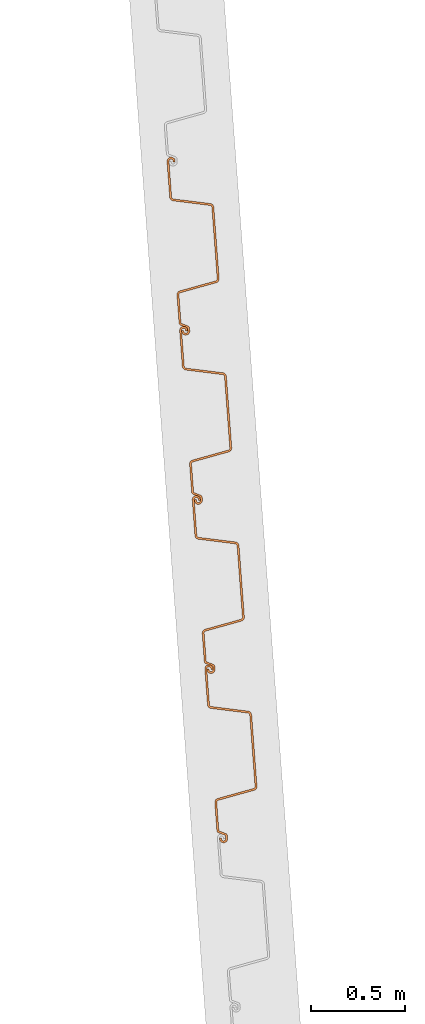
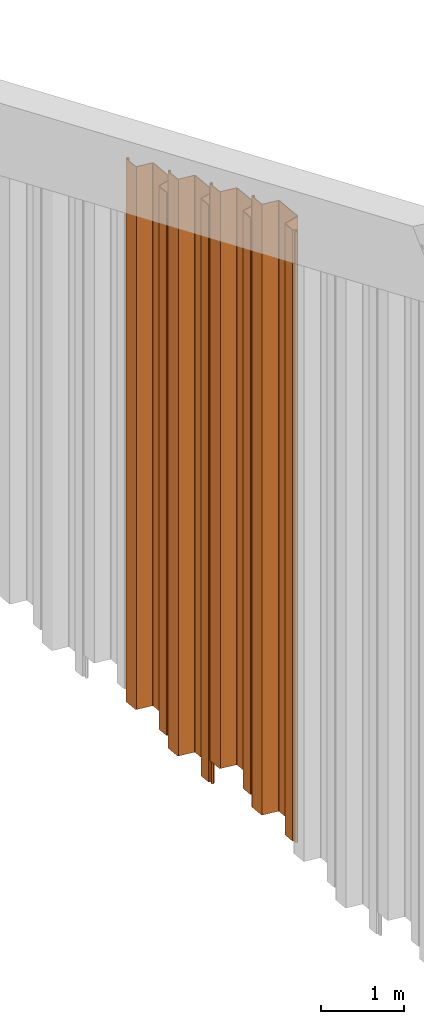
# One storey, part 4 of 15: 4 proxies.
"""IFC2X3 building model written with IfcOpenShell, lengths in millimetres."""

from ifc_helpers import new_model, entity, si_unit, converted_unit, derived_unit, direction, frame, frame_2d, origin, place, context, subcontext, project, spatial, polyline, circle_curve, parameter, trimmed, segment, composite_curve, outline, extrude, source, transform, mapped, material, type_object, type_shapes, element, save


model = new_model("IFC2X3")

# Units and contexts
model_context = context("Model", 3, precision=0.01, world=origin(), true_north=direction((6.12303176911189e-17, 1.0)))
body_context = subcontext(model_context, "Body", "Model", "MODEL_VIEW")
ifc_project = project(units=[si_unit("LENGTHUNIT", "METRE", prefix="MILLI"), si_unit("AREAUNIT", "SQUARE_METRE"), si_unit("VOLUMEUNIT", "CUBIC_METRE"), converted_unit("PLANEANGLEUNIT", "DEGREE", entity("IfcRatioMeasure", 0.0174532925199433), si_unit("PLANEANGLEUNIT", "RADIAN"), dimensions=[0, 0, 0, 0, 0, 0, 0]), si_unit("MASSUNIT", "GRAM", prefix="KILO"), derived_unit("MASSDENSITYUNIT", [(si_unit("MASSUNIT", "GRAM", prefix="KILO"), 1), (si_unit("LENGTHUNIT", "METRE"), -3)]), derived_unit("MOMENTOFINERTIAUNIT", [(si_unit("LENGTHUNIT", "METRE"), 4)]), si_unit("TIMEUNIT", "SECOND"), si_unit("FREQUENCYUNIT", "HERTZ"), si_unit("THERMODYNAMICTEMPERATUREUNIT", "DEGREE_CELSIUS"), derived_unit("THERMALTRANSMITTANCEUNIT", [(si_unit("MASSUNIT", "GRAM", prefix="KILO"), 1), (si_unit("THERMODYNAMICTEMPERATUREUNIT", "KELVIN"), -1), (si_unit("TIMEUNIT", "SECOND"), -3)]), derived_unit("VOLUMETRICFLOWRATEUNIT", [(si_unit("LENGTHUNIT", "METRE"), 3), (si_unit("TIMEUNIT", "SECOND"), -1)]), si_unit("ELECTRICCURRENTUNIT", "AMPERE"), si_unit("ELECTRICVOLTAGEUNIT", "VOLT"), si_unit("POWERUNIT", "WATT"), si_unit("FORCEUNIT", "NEWTON", prefix="KILO"), si_unit("ILLUMINANCEUNIT", "LUX"), si_unit("LUMINOUSFLUXUNIT", "LUMEN"), si_unit("LUMINOUSINTENSITYUNIT", "CANDELA"), derived_unit("USERDEFINED", [(si_unit("MASSUNIT", "GRAM", prefix="KILO"), -1), (si_unit("LENGTHUNIT", "METRE"), -2), (si_unit("TIMEUNIT", "SECOND"), 3), (si_unit("LUMINOUSFLUXUNIT", "LUMEN"), 1)]), derived_unit("LINEARVELOCITYUNIT", [(si_unit("LENGTHUNIT", "METRE"), 1), (si_unit("TIMEUNIT", "SECOND"), -1)]), si_unit("PRESSUREUNIT", "PASCAL"), derived_unit("USERDEFINED", [(si_unit("LENGTHUNIT", "METRE"), -2), (si_unit("MASSUNIT", "GRAM", prefix="KILO"), 1), (si_unit("TIMEUNIT", "SECOND"), -2)]), derived_unit("LINEARFORCEUNIT", [(si_unit("MASSUNIT", "GRAM", prefix="KILO"), 1), (si_unit("LENGTHUNIT", "METRE"), 1), (si_unit("TIMEUNIT", "SECOND"), -2), (si_unit("LENGTHUNIT", "METRE"), -1)]), derived_unit("PLANARFORCEUNIT", [(si_unit("MASSUNIT", "GRAM", prefix="KILO"), 1), (si_unit("LENGTHUNIT", "METRE"), 1), (si_unit("TIMEUNIT", "SECOND"), -2), (si_unit("LENGTHUNIT", "METRE"), -2)])], contexts=[model_context])

# Site, building, storey
site_placement = place(None, origin())
site = spatial("IfcSite", under=ifc_project, at=site_placement, Name="Default", CompositionType="ELEMENT")
building_placement = place(site_placement, origin())
building = spatial("IfcBuilding", under=site, at=building_placement, CompositionType="ELEMENT")
storey_placement = place(building_placement, frame((0.0, 0.0, 9500.0)))
storey = spatial("IfcBuildingStorey", under=building, at=storey_placement, Name="AP+9.500", CompositionType="ELEMENT", Elevation=9500.0)

# Proxies
ifc_material = material(Name="<Unnamed>")
building_element_proxy_type_1 = type_object("IfcBuildingElementProxyType", Name="鋼矢板10H型:鋼矢板10H型", PredefinedType="NOTDEFINED", material=ifc_material)
shared_shape_1 = source(origin(), body_context, "Body", "SweptSolid", [
    extrude(outline(composite_curve([segment(trimmed(circle_curve(frame_2d((85.3662976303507, 306.644432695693), x_axis=(0.422618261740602, 0.906307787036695)), 13.885714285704), [parameter(24.9999999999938)], [parameter(90.0000000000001)], True, "PARAMETER"), True, "CONTINUOUS"), segment(polyline([(72.7815666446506, 312.512789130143), (9.8129512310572, 177.476157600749)]), True, "CONTINUOUS"), segment(trimmed(circle_curve(frame_2d((29.3891994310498, 168.347603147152), x_axis=(0.422618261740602, 0.906307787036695)), 21.6), [parameter(90.0000000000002)], [parameter(168.69006752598)], True, "PARAMETER"), True, "CONTINUOUS"), segment(polyline([(16.598697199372, 150.941769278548), (175.329723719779, 34.2998683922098)]), True, "CONTINUOUS"), segment(trimmed(circle_curve(frame_2d((168.93447260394, 25.596951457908), x_axis=(0.422618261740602, 0.906307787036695)), 10.7999999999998), [parameter(270.0)], [parameter(348.690067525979)], True, "PARAMETER"), False, "CONTINUOUS"), segment(polyline([(178.722596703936, 21.0326742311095), (18.2974003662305, -323.000269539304)]), True, "CONTINUOUS"), segment(trimmed(circle_curve(frame_2d((8.50927626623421, -318.435992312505), x_axis=(0.422618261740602, 0.906307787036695)), 10.8), [parameter(191.30993247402)], [parameter(269.999999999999)], True, "PARAMETER"), False, "CONTINUOUS"), segment(polyline([(5.95324328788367, -328.929166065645), (-185.429973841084, -282.310113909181)]), True, "CONTINUOUS"), segment(trimmed(circle_curve(frame_2d((-190.542039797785, -303.296461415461), x_axis=(0.422618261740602, 0.906307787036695)), 21.6000000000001), [parameter(11.3099324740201)], [parameter(90.0000000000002)], True, "PARAMETER"), True, "CONTINUOUS"), segment(polyline([(-210.118287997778, -294.167906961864), (-290.330886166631, -466.184378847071)]), True, "CONTINUOUS"), segment(trimmed(circle_curve(frame_2d((-270.754637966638, -475.312933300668), x_axis=(0.422618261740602, 0.906307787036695)), 21.6), [parameter(90.0000000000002)], [parameter(269.999999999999)], True, "PARAMETER"), True, "CONTINUOUS"), segment(polyline([(-251.178389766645, -484.441487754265), (-249.065298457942, -479.909948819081)]), True, "CONTINUOUS"), segment(polyline([(-249.065298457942, -479.909948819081), (-258.853422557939, -475.345671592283)]), True, "CONTINUOUS"), segment(polyline([(-258.853422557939, -475.345671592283), (-260.966513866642, -479.877210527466)]), True, "CONTINUOUS"), segment(trimmed(circle_curve(frame_2d((-270.754637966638, -475.312933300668), x_axis=(0.422618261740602, 0.906307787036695)), 10.8), [parameter(90.0000000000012)], [parameter(270.0)], True, "PARAMETER"), False, "CONTINUOUS"), segment(polyline([(-280.542762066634, -470.748656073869), (-200.330163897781, -298.732184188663)]), True, "CONTINUOUS"), segment(trimmed(circle_curve(frame_2d((-190.542039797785, -303.296461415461), x_axis=(0.422618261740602, 0.906307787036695)), 10.8), [parameter(11.3099324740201)], [parameter(89.9999999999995)], True, "PARAMETER"), False, "CONTINUOUS"), segment(polyline([(-187.986006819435, -292.803287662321), (3.39721030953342, -339.422339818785)]), True, "CONTINUOUS"), segment(trimmed(circle_curve(frame_2d((8.50927626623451, -318.435992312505), x_axis=(0.422618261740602, 0.906307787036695)), 21.6), [parameter(191.30993247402)], [parameter(270.0)], True, "PARAMETER"), True, "CONTINUOUS"), segment(polyline([(28.0855244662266, -327.564546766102), (188.510720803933, 16.4683970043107)]), True, "CONTINUOUS"), segment(trimmed(circle_curve(frame_2d((168.93447260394, 25.5969514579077), x_axis=(0.422618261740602, 0.906307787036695)), 21.6), [parameter(270.0)], [parameter(348.69006752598)], True, "PARAMETER"), True, "CONTINUOUS"), segment(polyline([(181.724974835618, 43.0027853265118), (22.9939483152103, 159.644686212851)]), True, "CONTINUOUS"), segment(trimmed(circle_curve(frame_2d((29.3891994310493, 168.347603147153), x_axis=(0.422618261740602, 0.906307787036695)), 10.7999999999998), [parameter(89.9999999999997)], [parameter(168.690067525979)], True, "PARAMETER"), False, "CONTINUOUS"), segment(polyline([(19.6010753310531, 172.911880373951), (82.5696907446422, 307.948511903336)]), True, "CONTINUOUS"), segment(trimmed(circle_curve(frame_2d((85.3662976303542, 306.64443269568), x_axis=(0.422618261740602, 0.906307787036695)), 3.08571428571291), [parameter(25.0000000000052)], [parameter(90.0000000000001)], True, "PARAMETER"), False, "CONTINUOUS"), segment(polyline([(85.3662976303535, 309.730146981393), (122.220231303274, 309.730146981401)]), True, "CONTINUOUS"), segment(trimmed(circle_curve(frame_2d((122.220231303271, 323.615861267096), x_axis=(0.422618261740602, 0.906307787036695)), 13.8857142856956), [parameter(205.000000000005)], [parameter(270.0)], True, "PARAMETER"), True, "CONTINUOUS"), segment(polyline([(134.804962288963, 317.747504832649), (141.079261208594, 331.202782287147)]), True, "CONTINUOUS"), segment(trimmed(circle_curve(frame_2d((121.503013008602, 340.331336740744), x_axis=(0.422618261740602, 0.906307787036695)), 21.6), [parameter(270.0)], [parameter(90.0000000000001)], True, "PARAMETER"), True, "CONTINUOUS"), segment(polyline([(101.926764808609, 349.459891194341), (99.8136734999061, 344.928352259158)]), True, "CONTINUOUS"), segment(polyline([(99.8136734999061, 344.928352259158), (109.601797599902, 340.364075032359)]), True, "CONTINUOUS"), segment(polyline([(109.601797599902, 340.364075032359), (111.714888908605, 344.895613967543)]), True, "CONTINUOUS"), segment(trimmed(circle_curve(frame_2d((121.503013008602, 340.331336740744), x_axis=(0.422618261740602, 0.906307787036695)), 10.8), [parameter(270.0)], [parameter(89.9999999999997)], True, "PARAMETER"), False, "CONTINUOUS"), segment(polyline([(131.291137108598, 335.767059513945), (125.01683818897, 322.311782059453)]), True, "CONTINUOUS"), segment(trimmed(circle_curve(frame_2d((122.220231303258, 323.615861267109), x_axis=(0.422618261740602, 0.906307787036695)), 3.08571428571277), [parameter(204.999999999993)], [parameter(270.0)], True, "PARAMETER"), False, "CONTINUOUS"), segment(polyline([(122.220231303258, 320.530146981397), (85.3662976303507, 320.530146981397)]), True, "CONTINUOUS")], self_intersect=False)), frame((95.205667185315, -48.8888888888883, -8000.0), z_axis=(0.0, 0.0, -1.0), x_axis=(0.4226182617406, 0.906307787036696, 0.0)), (0.0, 0.0, -1.0), 8000.0),
])
type_shapes(building_element_proxy_type_1, [shared_shape_1])
proxy_1_placement = place(storey_placement, frame((-90731.3573459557, 11218.7554386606, 4170.89397191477), z_axis=(0.0, 0.0, 1.0), x_axis=(0.0743258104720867, -0.997234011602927, 0.0)))
element("IfcBuildingElementProxy", 1, at=proxy_1_placement, inside=storey, type_object=building_element_proxy_type_1, material=ifc_material, Name="鋼矢板10H型:鋼矢板10H型", ObjectType="鋼矢板10H型:鋼矢板10H型", context=body_context, shape_type="MappedRepresentation", body=[
    mapped(shared_shape_1, transform((0.0, 0.0, 0.0), scale=1.0)),
])
building_element_proxy_type_2 = type_object("IfcBuildingElementProxyType", Name="鋼矢板10H型:鋼矢板10H型", PredefinedType="NOTDEFINED", material=ifc_material)
shared_shape_2 = source(origin(), body_context, "Body", "SweptSolid", [
    extrude(outline(composite_curve([segment(trimmed(circle_curve(frame_2d((85.3662976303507, 306.644432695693), x_axis=(0.422618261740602, 0.906307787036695)), 13.885714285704), [parameter(24.9999999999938)], [parameter(90.0000000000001)], True, "PARAMETER"), True, "CONTINUOUS"), segment(polyline([(72.7815666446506, 312.512789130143), (9.8129512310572, 177.476157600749)]), True, "CONTINUOUS"), segment(trimmed(circle_curve(frame_2d((29.3891994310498, 168.347603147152), x_axis=(0.422618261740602, 0.906307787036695)), 21.6), [parameter(90.0000000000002)], [parameter(168.69006752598)], True, "PARAMETER"), True, "CONTINUOUS"), segment(polyline([(16.598697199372, 150.941769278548), (175.329723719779, 34.2998683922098)]), True, "CONTINUOUS"), segment(trimmed(circle_curve(frame_2d((168.93447260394, 25.596951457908), x_axis=(0.422618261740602, 0.906307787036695)), 10.7999999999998), [parameter(270.0)], [parameter(348.690067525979)], True, "PARAMETER"), False, "CONTINUOUS"), segment(polyline([(178.722596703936, 21.0326742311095), (18.2974003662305, -323.000269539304)]), True, "CONTINUOUS"), segment(trimmed(circle_curve(frame_2d((8.50927626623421, -318.435992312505), x_axis=(0.422618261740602, 0.906307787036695)), 10.8), [parameter(191.30993247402)], [parameter(269.999999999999)], True, "PARAMETER"), False, "CONTINUOUS"), segment(polyline([(5.95324328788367, -328.929166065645), (-185.429973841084, -282.310113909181)]), True, "CONTINUOUS"), segment(trimmed(circle_curve(frame_2d((-190.542039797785, -303.296461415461), x_axis=(0.422618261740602, 0.906307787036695)), 21.6000000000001), [parameter(11.3099324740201)], [parameter(90.0000000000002)], True, "PARAMETER"), True, "CONTINUOUS"), segment(polyline([(-210.118287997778, -294.167906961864), (-290.330886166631, -466.184378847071)]), True, "CONTINUOUS"), segment(trimmed(circle_curve(frame_2d((-270.754637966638, -475.312933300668), x_axis=(0.422618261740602, 0.906307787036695)), 21.6), [parameter(90.0000000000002)], [parameter(269.999999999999)], True, "PARAMETER"), True, "CONTINUOUS"), segment(polyline([(-251.178389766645, -484.441487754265), (-249.065298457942, -479.909948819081)]), True, "CONTINUOUS"), segment(polyline([(-249.065298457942, -479.909948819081), (-258.853422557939, -475.345671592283)]), True, "CONTINUOUS"), segment(polyline([(-258.853422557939, -475.345671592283), (-260.966513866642, -479.877210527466)]), True, "CONTINUOUS"), segment(trimmed(circle_curve(frame_2d((-270.754637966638, -475.312933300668), x_axis=(0.422618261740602, 0.906307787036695)), 10.8), [parameter(90.0000000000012)], [parameter(270.0)], True, "PARAMETER"), False, "CONTINUOUS"), segment(polyline([(-280.542762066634, -470.748656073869), (-200.330163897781, -298.732184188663)]), True, "CONTINUOUS"), segment(trimmed(circle_curve(frame_2d((-190.542039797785, -303.296461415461), x_axis=(0.422618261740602, 0.906307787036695)), 10.8), [parameter(11.3099324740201)], [parameter(89.9999999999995)], True, "PARAMETER"), False, "CONTINUOUS"), segment(polyline([(-187.986006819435, -292.803287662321), (3.39721030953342, -339.422339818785)]), True, "CONTINUOUS"), segment(trimmed(circle_curve(frame_2d((8.50927626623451, -318.435992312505), x_axis=(0.422618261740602, 0.906307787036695)), 21.6), [parameter(191.30993247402)], [parameter(270.0)], True, "PARAMETER"), True, "CONTINUOUS"), segment(polyline([(28.0855244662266, -327.564546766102), (188.510720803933, 16.4683970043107)]), True, "CONTINUOUS"), segment(trimmed(circle_curve(frame_2d((168.93447260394, 25.5969514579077), x_axis=(0.422618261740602, 0.906307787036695)), 21.6), [parameter(270.0)], [parameter(348.69006752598)], True, "PARAMETER"), True, "CONTINUOUS"), segment(polyline([(181.724974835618, 43.0027853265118), (22.9939483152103, 159.644686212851)]), True, "CONTINUOUS"), segment(trimmed(circle_curve(frame_2d((29.3891994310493, 168.347603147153), x_axis=(0.422618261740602, 0.906307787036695)), 10.7999999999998), [parameter(89.9999999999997)], [parameter(168.690067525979)], True, "PARAMETER"), False, "CONTINUOUS"), segment(polyline([(19.6010753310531, 172.911880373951), (82.5696907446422, 307.948511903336)]), True, "CONTINUOUS"), segment(trimmed(circle_curve(frame_2d((85.3662976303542, 306.64443269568), x_axis=(0.422618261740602, 0.906307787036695)), 3.08571428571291), [parameter(25.0000000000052)], [parameter(90.0000000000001)], True, "PARAMETER"), False, "CONTINUOUS"), segment(polyline([(85.3662976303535, 309.730146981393), (122.220231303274, 309.730146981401)]), True, "CONTINUOUS"), segment(trimmed(circle_curve(frame_2d((122.220231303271, 323.615861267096), x_axis=(0.422618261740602, 0.906307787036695)), 13.8857142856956), [parameter(205.000000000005)], [parameter(270.0)], True, "PARAMETER"), True, "CONTINUOUS"), segment(polyline([(134.804962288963, 317.747504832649), (141.079261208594, 331.202782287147)]), True, "CONTINUOUS"), segment(trimmed(circle_curve(frame_2d((121.503013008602, 340.331336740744), x_axis=(0.422618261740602, 0.906307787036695)), 21.6), [parameter(270.0)], [parameter(90.0000000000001)], True, "PARAMETER"), True, "CONTINUOUS"), segment(polyline([(101.926764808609, 349.459891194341), (99.8136734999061, 344.928352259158)]), True, "CONTINUOUS"), segment(polyline([(99.8136734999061, 344.928352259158), (109.601797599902, 340.364075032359)]), True, "CONTINUOUS"), segment(polyline([(109.601797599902, 340.364075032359), (111.714888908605, 344.895613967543)]), True, "CONTINUOUS"), segment(trimmed(circle_curve(frame_2d((121.503013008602, 340.331336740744), x_axis=(0.422618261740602, 0.906307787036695)), 10.8), [parameter(270.0)], [parameter(89.9999999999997)], True, "PARAMETER"), False, "CONTINUOUS"), segment(polyline([(131.291137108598, 335.767059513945), (125.01683818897, 322.311782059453)]), True, "CONTINUOUS"), segment(trimmed(circle_curve(frame_2d((122.220231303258, 323.615861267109), x_axis=(0.422618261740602, 0.906307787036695)), 3.08571428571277), [parameter(204.999999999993)], [parameter(270.0)], True, "PARAMETER"), False, "CONTINUOUS"), segment(polyline([(122.220231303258, 320.530146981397), (85.3662976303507, 320.530146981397)]), True, "CONTINUOUS")], self_intersect=False)), frame((95.205667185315, -48.8888888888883, -8500.0), z_axis=(0.0, 0.0, -1.0), x_axis=(0.4226182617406, 0.906307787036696, 0.0)), (0.0, 0.0, -1.0), 8500.0),
])
type_shapes(building_element_proxy_type_2, [shared_shape_2])
for number, where, z_axis, x_axis in (
    (2, (-90664.4641165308, 10321.244828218, 4507.0379964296), (0.0, 0.0, 1.0), (0.0743258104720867, -0.997234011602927, 0.0)),
    (3, (-90597.5708871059, 9423.73421777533, 4843.18202094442), (0.0, 0.0, 1.0), (0.0743258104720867, -0.997234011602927, 0.0)),
):
    element("IfcBuildingElementProxy", number, at=place(storey_placement, frame(where, z_axis=z_axis, x_axis=x_axis)), inside=storey, type_object=building_element_proxy_type_2, material=ifc_material, Name="鋼矢板10H型:鋼矢板10H型", ObjectType="鋼矢板10H型:鋼矢板10H型", context=body_context, shape_type="MappedRepresentation", body=[
        mapped(shared_shape_2, transform((0.0, 0.0, 0.0), scale=1.0)),
    ])
building_element_proxy_type_3 = type_object("IfcBuildingElementProxyType", Name="鋼矢板10H型:鋼矢板10H型", PredefinedType="NOTDEFINED", material=ifc_material)
shared_shape_3 = source(origin(), body_context, "Body", "SweptSolid", [
    extrude(outline(composite_curve([segment(trimmed(circle_curve(frame_2d((85.3662976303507, 306.644432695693), x_axis=(0.422618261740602, 0.906307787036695)), 13.885714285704), [parameter(24.9999999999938)], [parameter(90.0000000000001)], True, "PARAMETER"), True, "CONTINUOUS"), segment(polyline([(72.7815666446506, 312.512789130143), (9.8129512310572, 177.476157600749)]), True, "CONTINUOUS"), segment(trimmed(circle_curve(frame_2d((29.3891994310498, 168.347603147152), x_axis=(0.422618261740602, 0.906307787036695)), 21.6), [parameter(90.0000000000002)], [parameter(168.69006752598)], True, "PARAMETER"), True, "CONTINUOUS"), segment(polyline([(16.598697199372, 150.941769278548), (175.329723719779, 34.2998683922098)]), True, "CONTINUOUS"), segment(trimmed(circle_curve(frame_2d((168.93447260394, 25.596951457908), x_axis=(0.422618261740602, 0.906307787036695)), 10.7999999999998), [parameter(270.0)], [parameter(348.690067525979)], True, "PARAMETER"), False, "CONTINUOUS"), segment(polyline([(178.722596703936, 21.0326742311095), (18.2974003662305, -323.000269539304)]), True, "CONTINUOUS"), segment(trimmed(circle_curve(frame_2d((8.50927626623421, -318.435992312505), x_axis=(0.422618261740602, 0.906307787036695)), 10.8), [parameter(191.30993247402)], [parameter(269.999999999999)], True, "PARAMETER"), False, "CONTINUOUS"), segment(polyline([(5.95324328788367, -328.929166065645), (-185.429973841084, -282.310113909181)]), True, "CONTINUOUS"), segment(trimmed(circle_curve(frame_2d((-190.542039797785, -303.296461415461), x_axis=(0.422618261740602, 0.906307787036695)), 21.6000000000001), [parameter(11.3099324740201)], [parameter(90.0000000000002)], True, "PARAMETER"), True, "CONTINUOUS"), segment(polyline([(-210.118287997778, -294.167906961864), (-290.330886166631, -466.184378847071)]), True, "CONTINUOUS"), segment(trimmed(circle_curve(frame_2d((-270.754637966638, -475.312933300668), x_axis=(0.422618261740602, 0.906307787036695)), 21.6), [parameter(90.0000000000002)], [parameter(269.999999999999)], True, "PARAMETER"), True, "CONTINUOUS"), segment(polyline([(-251.178389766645, -484.441487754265), (-249.065298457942, -479.909948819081)]), True, "CONTINUOUS"), segment(polyline([(-249.065298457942, -479.909948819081), (-258.853422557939, -475.345671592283)]), True, "CONTINUOUS"), segment(polyline([(-258.853422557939, -475.345671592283), (-260.966513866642, -479.877210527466)]), True, "CONTINUOUS"), segment(trimmed(circle_curve(frame_2d((-270.754637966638, -475.312933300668), x_axis=(0.422618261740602, 0.906307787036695)), 10.8), [parameter(90.0000000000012)], [parameter(270.0)], True, "PARAMETER"), False, "CONTINUOUS"), segment(polyline([(-280.542762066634, -470.748656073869), (-200.330163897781, -298.732184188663)]), True, "CONTINUOUS"), segment(trimmed(circle_curve(frame_2d((-190.542039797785, -303.296461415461), x_axis=(0.422618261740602, 0.906307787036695)), 10.8), [parameter(11.3099324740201)], [parameter(89.9999999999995)], True, "PARAMETER"), False, "CONTINUOUS"), segment(polyline([(-187.986006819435, -292.803287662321), (3.39721030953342, -339.422339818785)]), True, "CONTINUOUS"), segment(trimmed(circle_curve(frame_2d((8.50927626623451, -318.435992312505), x_axis=(0.422618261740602, 0.906307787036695)), 21.6), [parameter(191.30993247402)], [parameter(270.0)], True, "PARAMETER"), True, "CONTINUOUS"), segment(polyline([(28.0855244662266, -327.564546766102), (188.510720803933, 16.4683970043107)]), True, "CONTINUOUS"), segment(trimmed(circle_curve(frame_2d((168.93447260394, 25.5969514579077), x_axis=(0.422618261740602, 0.906307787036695)), 21.6), [parameter(270.0)], [parameter(348.69006752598)], True, "PARAMETER"), True, "CONTINUOUS"), segment(polyline([(181.724974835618, 43.0027853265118), (22.9939483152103, 159.644686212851)]), True, "CONTINUOUS"), segment(trimmed(circle_curve(frame_2d((29.3891994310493, 168.347603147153), x_axis=(0.422618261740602, 0.906307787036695)), 10.7999999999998), [parameter(89.9999999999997)], [parameter(168.690067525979)], True, "PARAMETER"), False, "CONTINUOUS"), segment(polyline([(19.6010753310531, 172.911880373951), (82.5696907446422, 307.948511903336)]), True, "CONTINUOUS"), segment(trimmed(circle_curve(frame_2d((85.3662976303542, 306.64443269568), x_axis=(0.422618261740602, 0.906307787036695)), 3.08571428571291), [parameter(25.0000000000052)], [parameter(90.0000000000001)], True, "PARAMETER"), False, "CONTINUOUS"), segment(polyline([(85.3662976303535, 309.730146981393), (122.220231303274, 309.730146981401)]), True, "CONTINUOUS"), segment(trimmed(circle_curve(frame_2d((122.220231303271, 323.615861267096), x_axis=(0.422618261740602, 0.906307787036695)), 13.8857142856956), [parameter(205.000000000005)], [parameter(270.0)], True, "PARAMETER"), True, "CONTINUOUS"), segment(polyline([(134.804962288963, 317.747504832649), (141.079261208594, 331.202782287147)]), True, "CONTINUOUS"), segment(trimmed(circle_curve(frame_2d((121.503013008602, 340.331336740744), x_axis=(0.422618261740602, 0.906307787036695)), 21.6), [parameter(270.0)], [parameter(90.0000000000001)], True, "PARAMETER"), True, "CONTINUOUS"), segment(polyline([(101.926764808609, 349.459891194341), (99.8136734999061, 344.928352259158)]), True, "CONTINUOUS"), segment(polyline([(99.8136734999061, 344.928352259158), (109.601797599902, 340.364075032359)]), True, "CONTINUOUS"), segment(polyline([(109.601797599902, 340.364075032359), (111.714888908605, 344.895613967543)]), True, "CONTINUOUS"), segment(trimmed(circle_curve(frame_2d((121.503013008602, 340.331336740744), x_axis=(0.422618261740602, 0.906307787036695)), 10.8), [parameter(270.0)], [parameter(89.9999999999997)], True, "PARAMETER"), False, "CONTINUOUS"), segment(polyline([(131.291137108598, 335.767059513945), (125.01683818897, 322.311782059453)]), True, "CONTINUOUS"), segment(trimmed(circle_curve(frame_2d((122.220231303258, 323.615861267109), x_axis=(0.422618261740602, 0.906307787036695)), 3.08571428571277), [parameter(204.999999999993)], [parameter(270.0)], True, "PARAMETER"), False, "CONTINUOUS"), segment(polyline([(122.220231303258, 320.530146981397), (85.3662976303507, 320.530146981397)]), True, "CONTINUOUS")], self_intersect=False)), frame((95.205667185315, -48.8888888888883, -9000.0), z_axis=(0.0, 0.0, -1.0), x_axis=(0.4226182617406, 0.906307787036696, 0.0)), (0.0, 0.0, -1.0), 9000.0),
])
type_shapes(building_element_proxy_type_3, [shared_shape_3])
proxy_2_placement = place(storey_placement, frame((-90530.6776576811, 8526.22360733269, 5179.32604545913), z_axis=(0.0, 0.0, 1.0), x_axis=(0.0743258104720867, -0.997234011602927, 0.0)))
element("IfcBuildingElementProxy", 4, at=proxy_2_placement, inside=storey, type_object=building_element_proxy_type_3, material=ifc_material, Name="鋼矢板10H型:鋼矢板10H型", ObjectType="鋼矢板10H型:鋼矢板10H型", context=body_context, shape_type="MappedRepresentation", body=[
    mapped(shared_shape_3, transform((0.0, 0.0, 0.0), scale=1.0)),
])

save(model, "model.ifc")
